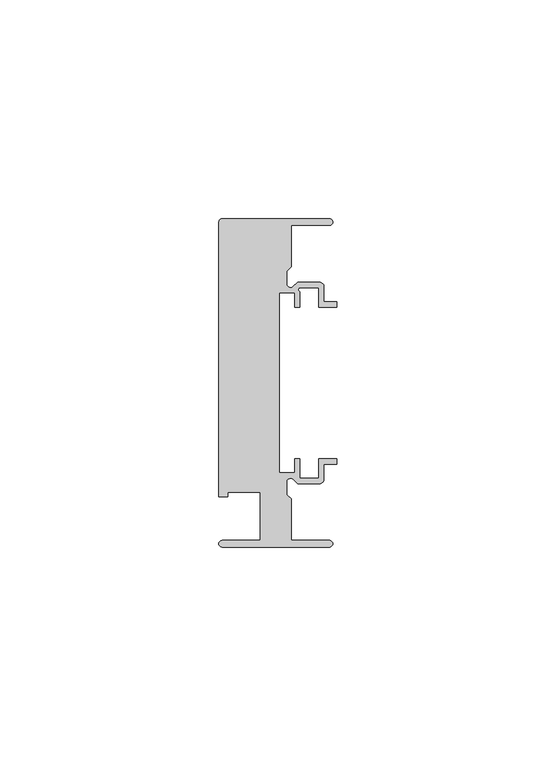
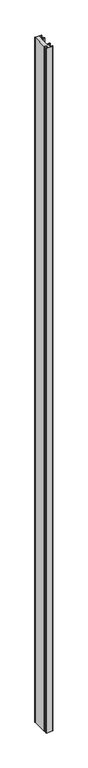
"""IFC4 building model written with IfcOpenShell, lengths in millimetres: member geometry, Прямоугольный импост : 5-AMG-1-Профиль 26Х75 Верх П."""

from ifc_helpers import new_model, si_unit, point, frame, frame_2d, origin, place, context, project, spatial, polyline, circle_curve, trimmed, segment, composite_curve, outline, extrude, source, transform, mapped, element, save


def member_6e2d20ba(model_context):
    return source(origin(), model_context, "Body", "SweptSolid", [
        extrude(outline(composite_curve([segment(polyline([(-1.7, -37.5), (-26.25, -37.5)]), True, "CONTINUOUS"), segment(trimmed(circle_curve(frame_2d((-26.25, -36.75)), 0.75), [point((-26.25, -37.5))], [point((-26.25, -36.0))], False, "CARTESIAN"), True, "CONTINUOUS"), segment(polyline([(-26.25, -36.0), (-17.5, -36.0), (-17.5, -25.0), (-24.9359877, -25.0), (-24.9359877, -26.0), (-27.0, -26.0), (-27.0, 36.7244847)]), True, "CONTINUOUS"), segment(trimmed(circle_curve(frame_2d((-26.2240507, 36.7244847)), 0.7759493), [point((-27.0, 36.7244847))], [point((-26.25, 37.5))], False, "CARTESIAN"), True, "CONTINUOUS"), segment(polyline([(-26.25, 37.5), (-1.7, 37.5)]), True, "CONTINUOUS"), segment(trimmed(circle_curve(frame_2d((-1.7, 36.75)), 0.75), [point((-1.7, 37.5))], [point((-1.7, 36.0))], False, "CARTESIAN"), True, "CONTINUOUS"), segment(polyline([(-1.7, 36.0), (-10.5, 36.0), (-10.5, 26.5029437), (-11.5, 25.5029437), (-11.5, 22.6727922)]), True, "CONTINUOUS"), segment(trimmed(circle_curve(frame_2d((-10.6, 22.6727922)), 0.9), [point((-11.5, 22.6727922))], [point((-9.9636039, 22.0363961))], True, "CARTESIAN"), True, "CONTINUOUS"), segment(polyline([(-9.9636039, 22.0363961), (-9.0, 23.0), (-4.0, 23.0)]), True, "CONTINUOUS"), segment(trimmed(circle_curve(frame_2d((-4.0, 22.0)), 1.0), [point((-4.0, 23.0))], [point((-3.0, 22.0))], False, "CARTESIAN"), True, "CONTINUOUS"), segment(polyline([(-3.0, 22.0), (-3.0, 18.55), (0.0, 18.55), (0.0, 17.35), (-4.2, 17.35), (-4.2, 21.8), (-8.5029437, 21.8)]), True, "CONTINUOUS"), segment(trimmed(circle_curve(frame_2d((-8.3343131, 21.3314262)), 0.4979937), [point((-8.5029437, 21.8))], [point((-8.45, 20.8470563))], True, "CARTESIAN"), True, "CONTINUOUS"), segment(polyline([(-8.45, 20.8470563), (-8.45, 17.35), (-9.65, 17.35), (-9.65, 20.55), (-13.15, 20.55), (-13.15, -20.55), (-9.65, -20.55), (-9.65, -17.35), (-8.45, -17.35), (-8.45, -21.8), (-4.2, -21.8), (-4.2, -17.35), (0.0, -17.35), (0.0, -18.55), (-3.0, -18.55), (-3.0, -22.0)]), True, "CONTINUOUS"), segment(trimmed(circle_curve(frame_2d((-4.0, -22.0)), 1.0), [point((-3.0, -22.0))], [point((-4.0, -23.0))], False, "CARTESIAN"), True, "CONTINUOUS"), segment(polyline([(-4.0, -23.0), (-9.0, -23.0), (-9.9636039, -22.0363961)]), True, "CONTINUOUS"), segment(trimmed(circle_curve(frame_2d((-10.6, -22.6727922)), 0.9), [point((-9.9636039, -22.0363961))], [point((-11.5, -22.6727922))], True, "CARTESIAN"), True, "CONTINUOUS"), segment(polyline([(-11.5, -22.6727922), (-11.5, -25.5029437), (-10.5, -26.5029437), (-10.5, -36.0), (-1.7, -36.0)]), True, "CONTINUOUS"), segment(trimmed(circle_curve(frame_2d((-1.7, -36.75)), 0.75), [point((-1.7, -36.0))], [point((-1.7, -37.5))], False, "CARTESIAN"), True, "CONTINUOUS")], self_intersect=False)), frame((0.0, 0.0, -2800.0), z_axis=(0.0, 0.0, 1.0), x_axis=(1.0, 0.0, 0.0)), (0.0, 0.0, 1.0), 2800.0),
    ])


if __name__ == "__main__":
    model = new_model("IFC4")
    model_context = context("Model", 3, world=origin())
    ifc_project = project(units=[si_unit("LENGTHUNIT", "METRE", prefix="MILLI")], contexts=[model_context])
    site = spatial("IfcSite", under=ifc_project)
    building = spatial("IfcBuilding", under=site)
    placement = place(None, origin())
    member_shape = member_6e2d20ba(model_context)
    element("IfcMember", 1, ObjectType="Прямоугольный импост : 5-AMG-1-Профиль 26Х75 Верх П", at=placement, inside=building, context=model_context, shape_type="MappedRepresentation", body=[
        mapped(member_shape, transform((0.0, 0.0, 0.0), x_axis=(1.0, 0.0, 0.0), y_axis=(0.0, 1.0, 0.0), z_axis=(0.0, 0.0, 1.0))),
    ])
    save(model, "model.ifc")
